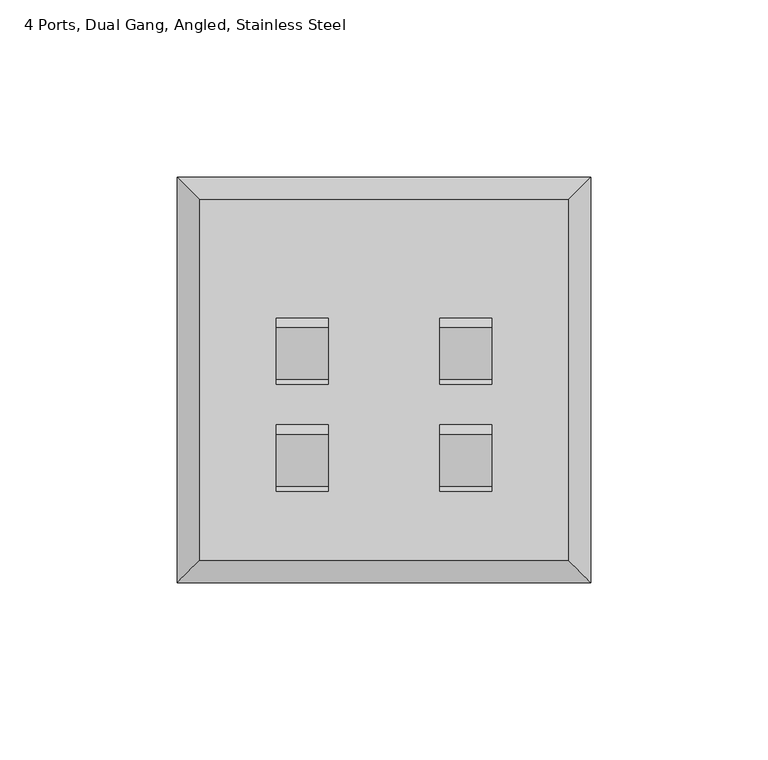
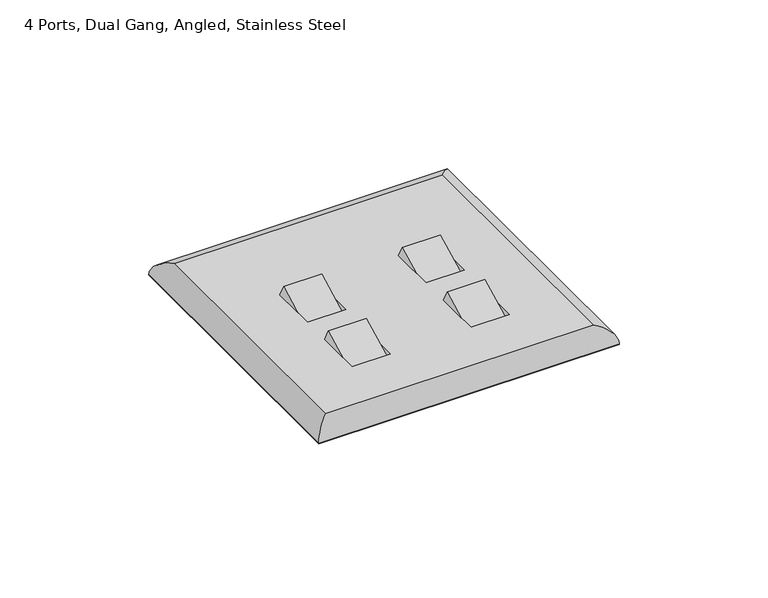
"""IFC4 building model written with IfcOpenShell, lengths in millimetres: electric appliance geometry, Data_Device-Work_Area-Leviton-QuickPort-Wallplate : 4 Ports, Dual Gang, Angled, Stainless Steel."""

from ifc_helpers import new_model, si_unit, frame, origin, origin_with_axes, place, context, project, spatial, polyline, ellipse_curve, outline, extrude, source, transform, mapped, element, save
from ifc_brep_helpers import plane_surface, cylinder_surface, advanced_brep


def electric_appliance_4_ports_dual_gang_angled_stainless_steel_6abe8cb7(model_context):
    return source(origin(), model_context, "Body", "SolidModel", [
        extrude(outline(polyline([(0.0, -16.51), (0.0, 0.0), (14.732, 0.0), (14.732, -16.51), (0.0, -16.51)])), frame((7.366, -18.8557048, -2.12579), z_axis=(0.0, -0.4558553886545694, 0.8900538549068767), x_axis=(-1.0, 0.0, 0.0)), (0.0, 0.0, 1.0), 6.35),
        extrude(outline(polyline([(0.0, -16.51), (0.0, 0.0), (14.732, 0.0), (14.732, -16.51), (0.0, -16.51)])), frame((7.366, 11.2505157, -2.12579), z_axis=(0.0, -0.4558553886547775, 0.8900538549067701), x_axis=(-1.0, 0.0, 0.0)), (0.0, 0.0, 1.0), 6.35),
        extrude(outline(polyline([(0.0, -16.51), (0.0, 0.0), (14.732, 0.0), (14.732, -16.51), (0.0, -16.51)])), frame((-38.6842, -18.8557048, -2.12579), z_axis=(0.0, -0.4558553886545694, 0.8900538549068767), x_axis=(-1.0, 0.0, 0.0)), (0.0, 0.0, 1.0), 6.35),
        extrude(outline(polyline([(0.0, -16.51), (0.0, 0.0), (14.732, 0.0), (14.732, -16.51), (0.0, -16.51)])), frame((-38.6842, 11.2505157, -2.12579), z_axis=(0.0, -0.4558553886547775, 0.8900538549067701), x_axis=(-1.0, 0.0, 0.0)), (0.0, 0.0, 1.0), 6.35),
        advanced_brep(
        [(28.9179, -42.6085, 6.35), (28.9179, 58.9915, 6.35), (-74.9681, 58.9915, 6.35), (-74.9681, -42.6085, 6.35), (7.366, -4.6472775, 6.35), (7.366, -23.1967169, 6.35), (-7.366, -23.1967169, 6.35), (-7.366, -4.6472775, 6.35), (-38.6842, -4.6472775, 6.35), (-38.6842, -23.1967169, 6.35), (-53.4162, -23.1967169, 6.35), (-53.4162, -4.6472775, 6.35), (7.366, 25.458943, 6.35), (7.366, 6.9095036, 6.35), (-7.366, 6.9095036, 6.35), (-7.366, 25.458943, 6.35), (-38.6842, 25.458943, 6.35), (-38.6842, 6.9095036, 6.35), (-53.4162, 6.9095036, 6.35), (-53.4162, 25.458943, 6.35), (35.2679, 65.3415, 0.0), (35.2679, -48.9585, 0.0), (-81.3181, -48.9585, 0.0), (-81.3181, 65.3415, 0.0), (7.366, -19.9444623, 0.0), (7.366, -1.3950229, 0.0), (-7.366, -1.3950229, 0.0), (-7.366, -19.9444623, 0.0), (-38.6842, -19.9444623, 0.0), (-38.6842, -1.3950229, 0.0), (-53.4162, -1.3950229, 0.0), (-53.4162, -19.9444623, 0.0), (7.366, 10.1617582, 0.0), (7.366, 28.7111975, 0.0), (-7.366, 28.7111975, 0.0), (-7.366, 10.1617582, 0.0), (-38.6842, 10.1617582, 0.0), (-38.6842, 28.7111975, 0.0), (-53.4162, 28.7111975, 0.0), (-53.4162, 10.1617582, 0.0), (-81.3181, 65.3415, 0.254), (35.2679, 65.3415, 0.254), (-81.3181, -48.9585, 0.254), (35.2679, -48.9585, 0.254)],
        [
            (0, 1),
            (1, 2),
            (2, 3),
            (3, 0),
            (4, 5),
            (5, 6),
            (6, 7),
            (7, 4),
            (8, 9),
            (9, 10),
            (10, 11),
            (11, 8),
            (12, 13),
            (13, 14),
            (14, 15),
            (15, 12),
            (16, 17),
            (17, 18),
            (18, 19),
            (19, 16),
            (20, 21),
            (21, 22),
            (22, 23),
            (23, 20),
            (24, 25),
            (25, 26),
            (26, 27),
            (27, 24),
            (28, 29),
            (29, 30),
            (30, 31),
            (31, 28),
            (32, 33),
            (33, 34),
            (34, 35),
            (35, 32),
            (36, 37),
            (37, 38),
            (38, 39),
            (39, 36),
            (23, 40),
            (40, 41),
            (41, 20),
            (22, 42),
            (42, 40),
            (21, 43),
            (43, 42),
            (41, 43),
            (4, 25),
            (24, 5),
            (27, 6),
            (26, 7),
            (8, 29),
            (28, 9),
            (31, 10),
            (30, 11),
            (12, 33),
            (32, 13),
            (35, 14),
            (34, 15),
            (16, 37),
            (36, 17),
            (39, 18),
            (38, 19),
            (0, 43, ellipse_curve(frame((28.9179, -42.6085, -0.0052917), z_axis=(0.7071067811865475, 0.7071067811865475, 0.0), x_axis=(0.7071067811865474, -0.7071067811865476, 0.0)), 8.9877397, 6.3552917)),
            (41, 1, ellipse_curve(frame((28.9179, 58.9915, -0.0052917), z_axis=(0.7071067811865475, -0.7071067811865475, 0.0), x_axis=(-0.7071067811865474, -0.7071067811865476, 0.0)), 8.9877397, 6.3552917)),
            (3, 42, ellipse_curve(frame((-74.9681, -42.6085, -0.0052917), z_axis=(0.7071067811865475, -0.7071067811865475, 0.0), x_axis=(-0.7071067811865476, -0.7071067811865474, 0.0)), 8.9877397, 6.3552917)),
            (2, 40, ellipse_curve(frame((-74.9681, 58.9915, -0.0052917), z_axis=(-0.7071067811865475, -0.7071067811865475, 0.0), x_axis=(-0.7071067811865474, 0.7071067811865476, 0.0)), 8.9877397, 6.3552917)),
        ],
        [
            plane_surface(frame((-81.3181, 65.3415, 6.35), z_axis=(0.0, 0.0, 1.0), x_axis=(-1.0, 0.0, 0.0))),
            plane_surface(frame((-81.3181, 65.3415, 0.0), z_axis=(0.0, 0.0, -1.0), x_axis=(1.0, 0.0, 0.0))),
            plane_surface(frame((35.2679, 65.3415, 6.35), z_axis=(0.0, 1.0, 0.0), x_axis=(0.0, 0.0, -1.0))),
            plane_surface(frame((-81.3181, 65.3415, 6.35), z_axis=(-1.0, 0.0, 0.0), x_axis=(0.0, 0.0, -1.0))),
            plane_surface(frame((-81.3181, -48.9585, 6.35), z_axis=(0.0, -1.0, 0.0), x_axis=(0.0, 0.0, -1.0))),
            plane_surface(frame((35.2679, -48.9585, 6.35), z_axis=(1.0, 0.0, 0.0), x_axis=(0.0, 0.0, -1.0))),
            plane_surface(frame((7.366, -0.1083612, -2.5121963), z_axis=(-1.0, 0.0, 0.0), x_axis=(0.0, -0.45585538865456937, 0.8900538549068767))),
            plane_surface(frame((7.366, -14.8031504, -10.0383688), z_axis=(0.0, 0.8900538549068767, 0.4558553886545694), x_axis=(0.0, -0.4558553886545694, 0.8900538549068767))),
            plane_surface(frame((-7.366, -14.8031504, -10.0383688), z_axis=(1.0, 0.0, 0.0), x_axis=(0.0, -0.4558553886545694, 0.8900538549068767))),
            plane_surface(frame((-7.366, -0.1083612, -2.5121963), z_axis=(0.0, -0.8900538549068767, -0.45585538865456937), x_axis=(0.0, -0.45585538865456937, 0.8900538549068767))),
            plane_surface(frame((-38.6842, -0.1083612, -2.5121963), z_axis=(-1.0, 0.0, 0.0), x_axis=(0.0, -0.45585538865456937, 0.8900538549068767))),
            plane_surface(frame((-38.6842, -14.8031504, -10.0383688), z_axis=(0.0, 0.8900538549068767, 0.4558553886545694), x_axis=(0.0, -0.4558553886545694, 0.8900538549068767))),
            plane_surface(frame((-53.4162, -14.8031504, -10.0383688), z_axis=(1.0, 0.0, 0.0), x_axis=(0.0, -0.4558553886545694, 0.8900538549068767))),
            plane_surface(frame((-53.4162, -0.1083612, -2.5121963), z_axis=(0.0, -0.8900538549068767, -0.45585538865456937), x_axis=(0.0, -0.45585538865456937, 0.8900538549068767))),
            plane_surface(frame((7.366, 29.9978593, -2.5121963), z_axis=(-1.0, 0.0, 0.0), x_axis=(0.0, -0.45585538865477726, 0.8900538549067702))),
            plane_surface(frame((7.366, 15.3030701, -10.0383688), z_axis=(0.0, 0.8900538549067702, 0.45585538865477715), x_axis=(0.0, -0.45585538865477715, 0.8900538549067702))),
            plane_surface(frame((-7.366, 15.3030701, -10.0383688), z_axis=(1.0, 0.0, 0.0), x_axis=(0.0, -0.45585538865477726, 0.8900538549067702))),
            plane_surface(frame((-7.366, 29.9978593, -2.5121963), z_axis=(0.0, -0.8900538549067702, -0.45585538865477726), x_axis=(0.0, -0.45585538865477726, 0.8900538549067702))),
            plane_surface(frame((-38.6842, 29.9978593, -2.5121963), z_axis=(-1.0, 0.0, 0.0), x_axis=(0.0, -0.45585538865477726, 0.8900538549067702))),
            plane_surface(frame((-38.6842, 15.3030701, -10.0383688), z_axis=(0.0, 0.8900538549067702, 0.45585538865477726), x_axis=(0.0, -0.45585538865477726, 0.8900538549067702))),
            plane_surface(frame((-53.4162, 15.3030701, -10.0383688), z_axis=(1.0, 0.0, 0.0), x_axis=(0.0, -0.45585538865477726, 0.8900538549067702))),
            plane_surface(frame((-53.4162, 29.9978593, -2.5121963), z_axis=(0.0, -0.8900538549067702, -0.45585538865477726), x_axis=(0.0, -0.45585538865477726, 0.8900538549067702))),
            cylinder_surface(frame((28.9179, 65.3415, -0.0052917), z_axis=(0.0, -1.0, 0.0), x_axis=(1.0, 0.0, 0.0)), 6.3552917),
            cylinder_surface(frame((35.2679, -42.6085, -0.0052917), z_axis=(-1.0, 0.0, 0.0), x_axis=(0.0, -1.0, 0.0)), 6.3552917),
            cylinder_surface(frame((-74.9681, -48.9585, -0.0052917), z_axis=(0.0, 1.0, 0.0), x_axis=(-1.0, 0.0, 0.0)), 6.3552917),
            cylinder_surface(frame((-81.3181, 58.9915, -0.0052917), z_axis=(1.0, 0.0, 0.0), x_axis=(0.0, 1.0, 0.0)), 6.3552917),
        ],
        [
            (0, [[1, 2, 3, 4], [5, 6, 7, 8], [9, 10, 11, 12], [13, 14, 15, 16], [17, 18, 19, 20]]),
            (1, [[21, 22, 23, 24], [25, 26, 27, 28], [29, 30, 31, 32], [33, 34, 35, 36], [37, 38, 39, 40]]),
            (2, [[-24, 41, 42, 43]]),
            (3, [[-23, 44, 45, -41]]),
            (4, [[-22, 46, 47, -44]]),
            (5, [[-21, -43, 48, -46]]),
            (6, [[49, -25, 50, -5]]),
            (7, [[-50, -28, 51, -6]]),
            (8, [[-51, -27, 52, -7]]),
            (9, [[-49, -8, -52, -26]]),
            (10, [[53, -29, 54, -9]]),
            (11, [[-54, -32, 55, -10]]),
            (12, [[-55, -31, 56, -11]]),
            (13, [[-53, -12, -56, -30]]),
            (14, [[57, -33, 58, -13]]),
            (15, [[-58, -36, 59, -14]]),
            (16, [[-59, -35, 60, -15]]),
            (17, [[-57, -16, -60, -34]]),
            (18, [[61, -37, 62, -17]]),
            (19, [[-62, -40, 63, -18]]),
            (20, [[-63, -39, 64, -19]]),
            (21, [[-61, -20, -64, -38]]),
            (22, [[65, -48, 66, -1]]),
            (23, [[-65, -4, 67, -47]]),
            (24, [[-67, -3, 68, -45]]),
            (25, [[-66, -42, -68, -2]]),
        ],
    ),
        extrude(outline(polyline([(35.0139, 65.0875), (35.0139, -48.7045), (-81.0641, -48.7045), (-81.0641, 65.0875), (35.0139, 65.0875)])), origin_with_axes(), (0.0, 0.0, 1.0), 0.254),
    ])


if __name__ == "__main__":
    model = new_model("IFC4")
    model_context = context("Model", 3, world=origin())
    ifc_project = project(units=[si_unit("LENGTHUNIT", "METRE", prefix="MILLI")], contexts=[model_context])
    site = spatial("IfcSite", under=ifc_project)
    building = spatial("IfcBuilding", under=site)
    placement = place(None, origin())
    electric_appliance_4_ports_dual_gang_angled_stainless_steel_shape = electric_appliance_4_ports_dual_gang_angled_stainless_steel_6abe8cb7(model_context)
    element("IfcElectricAppliance", 1, ObjectType="Data_Device-Work_Area-Leviton-QuickPort-Wallplate : 4 Ports, Dual Gang, Angled, Stainless Steel", at=placement, inside=building, context=model_context, shape_type="MappedRepresentation", body=[
        mapped(electric_appliance_4_ports_dual_gang_angled_stainless_steel_shape, transform((0.0, 0.0, 0.0), x_axis=(1.0, 0.0, 0.0), y_axis=(0.0, 1.0, 0.0), z_axis=(0.0, 0.0, 1.0))),
    ])
    save(model, "model.ifc")
